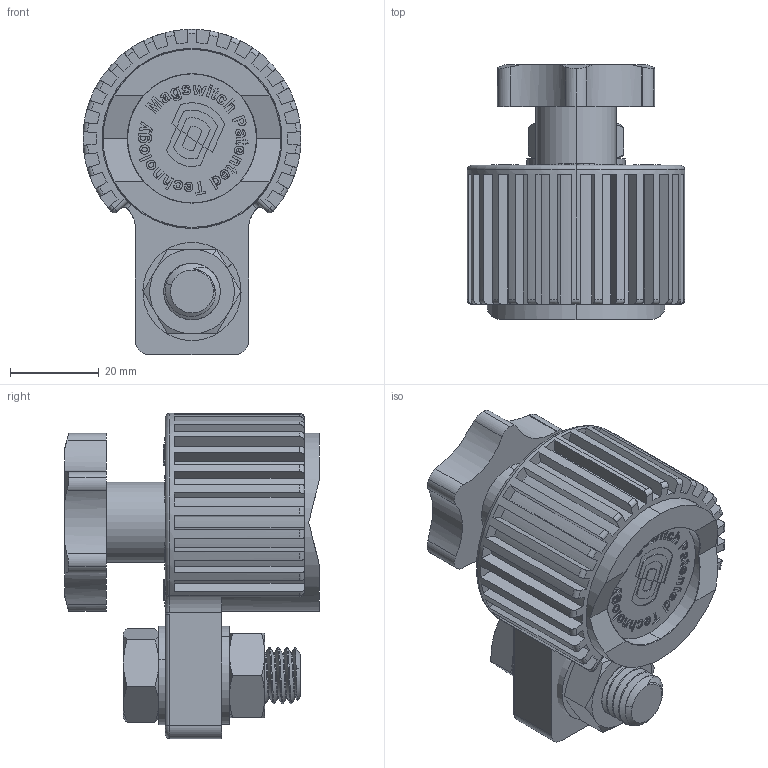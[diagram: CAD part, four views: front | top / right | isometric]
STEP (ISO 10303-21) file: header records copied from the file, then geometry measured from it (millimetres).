
FILE_DESCRIPTION (( 'STEP AP214' ), '1' );
FILE_NAME ('8100746_p.STEP', '2019-07-30T00:09:44', ( '' ), ( '' ), 'SwSTEP 2.0', 'SolidWorks 2018', '' );
FILE_SCHEMA (( 'AUTOMOTIVE_DESIGN' ));
Length unit declared in the file: millimetre
Products named in the file (1): 8100746_p
Bounding box: 48.99 x 57.25 x 73.1 mm (x, y, z)
Volume: 76940.2 mm3; surface area: 30459.4 mm2
Topology: 5 solids, 16 shells, 1450 faces, 3812 edges, 2472 vertices
Faces by surface type: plane 579, cylinder 345, bspline 315, cone 154, torus 53, sphere 4
Entity records: 94567 total; most frequent: CARTESIAN_POINT 46356, ORIENTED_EDGE 7608, DIRECTION 5537, EDGE_CURVE 3804, VERTEX_POINT 2472, VECTOR 1933, LINE 1933, AXIS2_PLACEMENT_3D 1802
